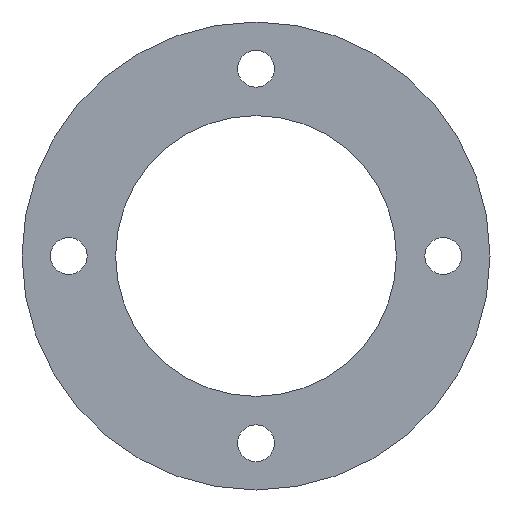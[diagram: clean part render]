
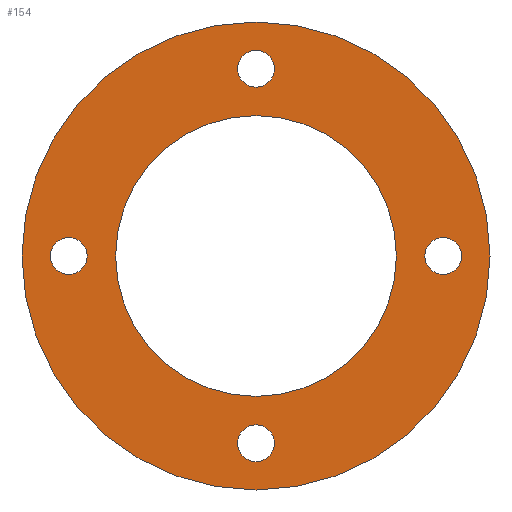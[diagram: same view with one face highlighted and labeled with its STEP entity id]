
A CAD part, left-side view. The second image highlights one B-rep face of the part: STEP entity #154.
In plain terms, the highlighted planar face has unit normal (-1, 0, 0).
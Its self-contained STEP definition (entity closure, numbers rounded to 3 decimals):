
#15=FACE_BOUND('',#41,.T.);
#16=FACE_BOUND('',#42,.T.);
#17=FACE_BOUND('',#43,.T.);
#18=FACE_BOUND('',#44,.T.);
#19=FACE_BOUND('',#45,.T.);
#25=PLANE('',#195);
#32=FACE_OUTER_BOUND('',#40,.T.);
#40=EDGE_LOOP('',(#127));
#41=EDGE_LOOP('',(#128));
#42=EDGE_LOOP('',(#129));
#43=EDGE_LOOP('',(#130));
#44=EDGE_LOOP('',(#131));
#45=EDGE_LOOP('',(#132));
#66=CIRCLE('',#182,2.75);
#68=CIRCLE('',#185,2.75);
#70=CIRCLE('',#188,2.75);
#72=CIRCLE('',#191,2.75);
#74=CIRCLE('',#194,21.);
#75=CIRCLE('',#196,35.);
#78=VERTEX_POINT('',#252);
#80=VERTEX_POINT('',#258);
#82=VERTEX_POINT('',#264);
#84=VERTEX_POINT('',#270);
#86=VERTEX_POINT('',#276);
#87=VERTEX_POINT('',#280);
#91=EDGE_CURVE('',#78,#78,#66,.T.);
#94=EDGE_CURVE('',#80,#80,#68,.T.);
#97=EDGE_CURVE('',#82,#82,#70,.T.);
#100=EDGE_CURVE('',#84,#84,#72,.T.);
#103=EDGE_CURVE('',#86,#86,#74,.T.);
#104=EDGE_CURVE('',#87,#87,#75,.T.);
#127=ORIENTED_EDGE('',*,*,#104,.F.);
#128=ORIENTED_EDGE('',*,*,#91,.T.);
#129=ORIENTED_EDGE('',*,*,#94,.T.);
#130=ORIENTED_EDGE('',*,*,#97,.T.);
#131=ORIENTED_EDGE('',*,*,#100,.T.);
#132=ORIENTED_EDGE('',*,*,#103,.T.);
#154=ADVANCED_FACE('',(#32,#15,#16,#17,#18,#19),#25,.T.);
#182=AXIS2_PLACEMENT_3D('',#254,#207,#208);
#185=AXIS2_PLACEMENT_3D('',#260,#214,#215);
#188=AXIS2_PLACEMENT_3D('',#266,#221,#222);
#191=AXIS2_PLACEMENT_3D('',#272,#228,#229);
#194=AXIS2_PLACEMENT_3D('',#278,#235,#236);
#195=AXIS2_PLACEMENT_3D('',#279,#237,#238);
#196=AXIS2_PLACEMENT_3D('',#281,#239,#240);
#207=DIRECTION('center_axis',(1.,0.,0.));
#208=DIRECTION('ref_axis',(0.,-1.,0.));
#214=DIRECTION('center_axis',(1.,0.,0.));
#215=DIRECTION('ref_axis',(0.,0.,1.));
#221=DIRECTION('center_axis',(1.,0.,0.));
#222=DIRECTION('ref_axis',(0.,1.,0.));
#228=DIRECTION('center_axis',(1.,0.,0.));
#229=DIRECTION('ref_axis',(0.,0.,-1.));
#235=DIRECTION('center_axis',(1.,0.,0.));
#236=DIRECTION('ref_axis',(0.,0.,-1.));
#237=DIRECTION('center_axis',(-1.,0.,0.));
#238=DIRECTION('ref_axis',(0.,0.,1.));
#239=DIRECTION('center_axis',(1.,0.,0.));
#240=DIRECTION('ref_axis',(0.,0.,-1.));
#252=CARTESIAN_POINT('',(0.,2.75,-28.));
#254=CARTESIAN_POINT('Origin',(0.,0.,
-28.));
#258=CARTESIAN_POINT('',(0.,-28.,-2.75));
#260=CARTESIAN_POINT('Origin',(0.,-28.,0.));
#264=CARTESIAN_POINT('',(0.,-2.75,28.));
#266=CARTESIAN_POINT('Origin',(0.,0.,
28.));
#270=CARTESIAN_POINT('',(0.,28.,2.75));
#272=CARTESIAN_POINT('Origin',(0.,28.,0.));
#276=CARTESIAN_POINT('',(0.,-21.,0.));
#278=CARTESIAN_POINT('Origin',(0.,0.,0.));
#279=CARTESIAN_POINT('Origin',(0.,35.,0.));
#280=CARTESIAN_POINT('',(0.,-35.,0.));
#281=CARTESIAN_POINT('Origin',(0.,0.,0.));
